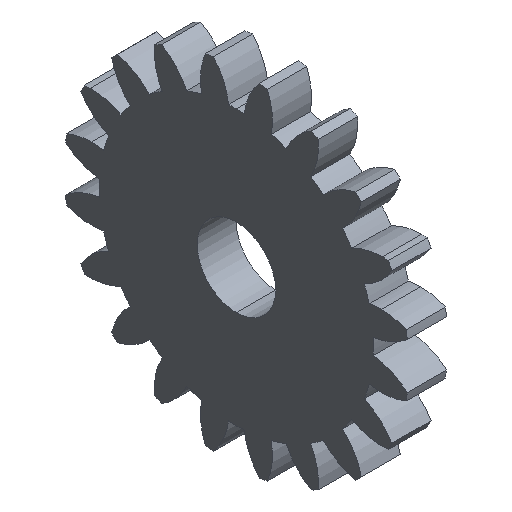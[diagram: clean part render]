
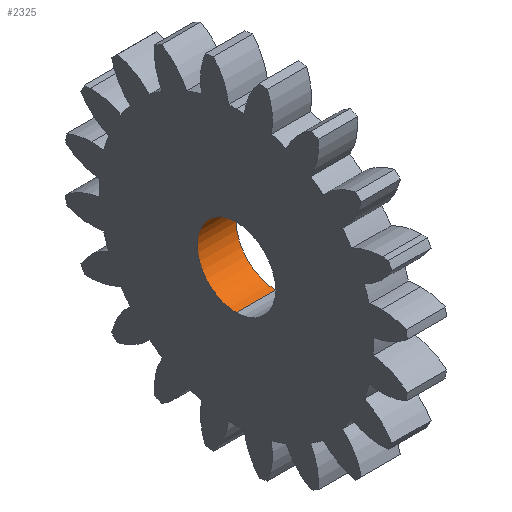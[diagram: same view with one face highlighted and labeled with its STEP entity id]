
A CAD part, isometric view. The second image highlights one B-rep face of the part: STEP entity #2325.
In plain terms, the highlighted cylindrical face has radius 6.35 mm (diameter 12.7 mm), a partial arc.
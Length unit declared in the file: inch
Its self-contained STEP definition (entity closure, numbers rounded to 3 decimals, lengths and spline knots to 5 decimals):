
#181 = AXIS2_PLACEMENT_3D ( 'NONE', #603, #1341, #2535 ) ;
#231 = DIRECTION ( 'NONE',  ( -1., 0., 0. ) ) ;
#313 = VECTOR ( 'NONE', #840, 39.37008 ) ;
#397 = DIRECTION ( 'NONE',  ( -1., 0., 0. ) ) ;
#402 = CARTESIAN_POINT ( 'NONE',  ( 2., 0., 0. ) ) ;
#460 = ORIENTED_EDGE ( 'NONE', *, *, #1802, .T. ) ;
#469 = DIRECTION ( 'NONE',  ( -1., 0., 0. ) ) ;
#603 = CARTESIAN_POINT ( 'NONE',  ( 0.25, 0., 0. ) ) ;
#664 = VECTOR ( 'NONE', #469, 39.37008 ) ;
#741 = EDGE_LOOP ( 'NONE', ( #2876, #460, #1898, #2441 ) ) ;
#772 = CARTESIAN_POINT ( 'NONE',  ( 0.25, 0., 0.25 ) ) ;
#820 = CARTESIAN_POINT ( 'NONE',  ( 2., 0., 0.25 ) ) ;
#840 = DIRECTION ( 'NONE',  ( -1., 0., 0. ) ) ;
#849 = EDGE_CURVE ( 'NONE', #2483, #1791, #3005, .T. ) ;
#976 = VERTEX_POINT ( 'NONE', #1392 ) ;
#1085 = VERTEX_POINT ( 'NONE', #772 ) ;
#1341 = DIRECTION ( 'NONE',  ( 1., 0., 0. ) ) ;
#1392 = CARTESIAN_POINT ( 'NONE',  ( 0.25, 0., -0.25 ) ) ;
#1416 = DIRECTION ( 'NONE',  ( 0., 0., 1. ) ) ;
#1463 = CARTESIAN_POINT ( 'NONE',  ( 0., 0., 0.25 ) ) ;
#1493 = AXIS2_PLACEMENT_3D ( 'NONE', #402, #231, #1416 ) ;
#1671 = LINE ( 'NONE', #2648, #664 ) ;
#1791 = VERTEX_POINT ( 'NONE', #2254 ) ;
#1802 = EDGE_CURVE ( 'NONE', #976, #1085, #3016, .T. ) ;
#1875 = CARTESIAN_POINT ( 'NONE',  ( 0., 0., 0. ) ) ;
#1898 = ORIENTED_EDGE ( 'NONE', *, *, #2654, .T. ) ;
#2239 = AXIS2_PLACEMENT_3D ( 'NONE', #1875, #397, #2312 ) ;
#2254 = CARTESIAN_POINT ( 'NONE',  ( 0., 0., -0.25 ) ) ;
#2312 = DIRECTION ( 'NONE',  ( 0., 0., -1. ) ) ;
#2325 = ADVANCED_FACE ( 'NONE', ( #2852 ), #2891, .F. ) ;
#2441 = ORIENTED_EDGE ( 'NONE', *, *, #849, .T. ) ;
#2483 = VERTEX_POINT ( 'NONE', #1463 ) ;
#2535 = DIRECTION ( 'NONE',  ( 0., 0., 1. ) ) ;
#2648 = CARTESIAN_POINT ( 'NONE',  ( 2., 0., -0.25 ) ) ;
#2654 = EDGE_CURVE ( 'NONE', #1085, #2483, #3026, .T. ) ;
#2852 = FACE_OUTER_BOUND ( 'NONE', #741, .T. ) ;
#2866 = EDGE_CURVE ( 'NONE', #976, #1791, #1671, .T. ) ;
#2876 = ORIENTED_EDGE ( 'NONE', *, *, #2866, .F. ) ;
#2891 = CYLINDRICAL_SURFACE ( 'NONE', #1493, 0.25 ) ;
#3005 = CIRCLE ( 'NONE', #2239, 0.25 ) ;
#3016 = CIRCLE ( 'NONE', #181, 0.25 ) ;
#3026 = LINE ( 'NONE', #820, #313 ) ;
